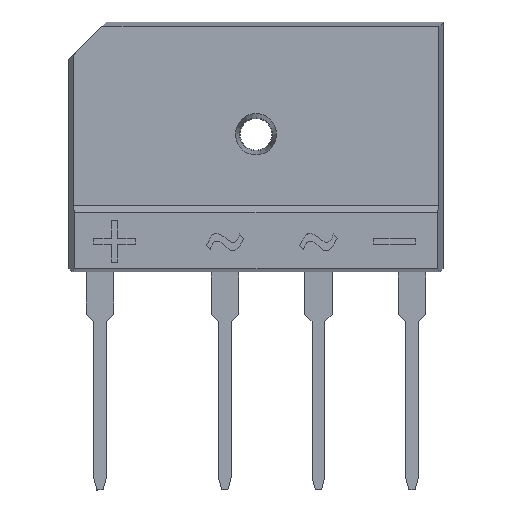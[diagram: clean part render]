
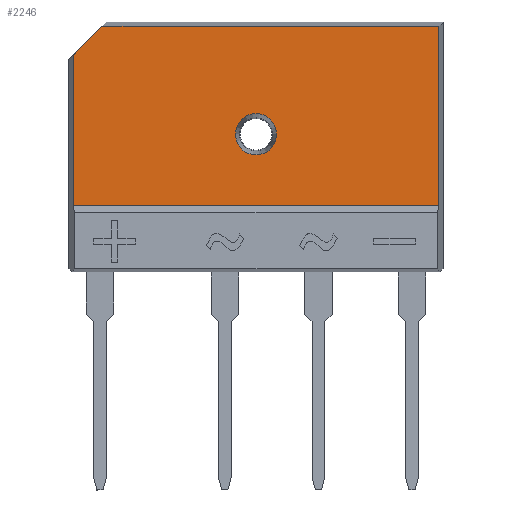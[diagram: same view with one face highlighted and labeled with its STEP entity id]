
A CAD part, top view. The second image highlights one B-rep face of the part: STEP entity #2246.
In plain terms, the highlighted planar face has unit normal (0, 0, 1).
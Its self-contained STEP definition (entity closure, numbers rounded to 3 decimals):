
#75 = VECTOR ( 'NONE', #4777, 1000. ) ;
#141 = DIRECTION ( 'NONE',  ( 1., 0., 0. ) ) ;
#193 = VERTEX_POINT ( 'NONE', #2133 ) ;
#219 = EDGE_CURVE ( 'NONE', #4292, #1981, #664, .T. ) ;
#234 = VERTEX_POINT ( 'NONE', #4473 ) ;
#262 = ORIENTED_EDGE ( 'NONE', *, *, #2604, .F. ) ;
#404 = CARTESIAN_POINT ( 'NONE',  ( -15., 9.656, 2.8 ) ) ;
#507 = EDGE_CURVE ( 'NONE', #193, #1981, #1909, .T. ) ;
#656 = ORIENTED_EDGE ( 'NONE', *, *, #4284, .F. ) ;
#664 = LINE ( 'NONE', #2166, #75 ) ;
#691 = DIRECTION ( 'NONE',  ( 0., -1., 0. ) ) ;
#696 = CARTESIAN_POINT ( 'NONE',  ( -12.344, 9.656, 2.8 ) ) ;
#748 = VECTOR ( 'NONE', #141, 1000. ) ;
#766 = DIRECTION ( 'NONE',  ( 0.707, 0.707, 0. ) ) ;
#1002 = VECTOR ( 'NONE', #766, 1000. ) ;
#1064 = EDGE_CURVE ( 'NONE', #3813, #4770, #1980, .T. ) ;
#1236 = DIRECTION ( 'NONE',  ( 1., 0., 0. ) ) ;
#1360 = CARTESIAN_POINT ( 'NONE',  ( 14.656, -4.7, 2.8 ) ) ;
#1481 = EDGE_CURVE ( 'NONE', #234, #2737, #4459, .T. ) ;
#1562 = CARTESIAN_POINT ( 'NONE',  ( 0., 1., 2.8 ) ) ;
#1588 = DIRECTION ( 'NONE',  ( 0., 0., 1. ) ) ;
#1696 = AXIS2_PLACEMENT_3D ( 'NONE', #2022, #4586, #1236 ) ;
#1712 = CARTESIAN_POINT ( 'NONE',  ( -15., 9.656, 2.8 ) ) ;
#1745 = FACE_OUTER_BOUND ( 'NONE', #1870, .T. ) ;
#1870 = EDGE_LOOP ( 'NONE', ( #656, #4593, #4172, #2179, #2471 ) ) ;
#1895 = VECTOR ( 'NONE', #691, 1000. ) ;
#1909 = LINE ( 'NONE', #4524, #1895 ) ;
#1940 = DIRECTION ( 'NONE',  ( 0., 0., -1. ) ) ;
#1980 = CIRCLE ( 'NONE', #4116, 1.65 ) ;
#1981 = VERTEX_POINT ( 'NONE', #1360 ) ;
#1994 = LINE ( 'NONE', #1712, #748 ) ;
#2022 = CARTESIAN_POINT ( 'NONE',  ( 0., 1., 2.8 ) ) ;
#2102 = CARTESIAN_POINT ( 'NONE',  ( -1.65, 1., 2.8 ) ) ;
#2133 = CARTESIAN_POINT ( 'NONE',  ( 14.656, 9.656, 2.8 ) ) ;
#2166 = CARTESIAN_POINT ( 'NONE',  ( -15., -4.7, 2.8 ) ) ;
#2174 = CARTESIAN_POINT ( 'NONE',  ( -12., 10., 2.8 ) ) ;
#2179 = ORIENTED_EDGE ( 'NONE', *, *, #219, .T. ) ;
#2246 = ADVANCED_FACE ( 'NONE', ( #4058, #1745 ), #2859, .F. ) ;
#2315 = LINE ( 'NONE', #3854, #3980 ) ;
#2328 = DIRECTION ( 'NONE',  ( 1., 0., 0. ) ) ;
#2471 = ORIENTED_EDGE ( 'NONE', *, *, #507, .F. ) ;
#2554 = AXIS2_PLACEMENT_3D ( 'NONE', #404, #1940, #3417 ) ;
#2604 = EDGE_CURVE ( 'NONE', #4770, #3813, #3166, .T. ) ;
#2640 = EDGE_CURVE ( 'NONE', #4292, #234, #2315, .T. ) ;
#2737 = VERTEX_POINT ( 'NONE', #696 ) ;
#2824 = EDGE_LOOP ( 'NONE', ( #262, #4263 ) ) ;
#2859 = PLANE ( 'NONE',  #2554 ) ;
#3102 = CARTESIAN_POINT ( 'NONE',  ( -14.656, -4.7, 2.8 ) ) ;
#3106 = DIRECTION ( 'NONE',  ( 0., 1., 0. ) ) ;
#3166 = CIRCLE ( 'NONE', #1696, 1.65 ) ;
#3417 = DIRECTION ( 'NONE',  ( 0., 1., 0. ) ) ;
#3813 = VERTEX_POINT ( 'NONE', #2102 ) ;
#3854 = CARTESIAN_POINT ( 'NONE',  ( -14.656, 7., 2.8 ) ) ;
#3873 = CARTESIAN_POINT ( 'NONE',  ( 1.65, 1., 2.8 ) ) ;
#3980 = VECTOR ( 'NONE', #3106, 1000. ) ;
#4058 = FACE_BOUND ( 'NONE', #2824, .T. ) ;
#4116 = AXIS2_PLACEMENT_3D ( 'NONE', #1562, #1588, #2328 ) ;
#4172 = ORIENTED_EDGE ( 'NONE', *, *, #2640, .F. ) ;
#4263 = ORIENTED_EDGE ( 'NONE', *, *, #1064, .F. ) ;
#4284 = EDGE_CURVE ( 'NONE', #2737, #193, #1994, .T. ) ;
#4292 = VERTEX_POINT ( 'NONE', #3102 ) ;
#4459 = LINE ( 'NONE', #2174, #1002 ) ;
#4473 = CARTESIAN_POINT ( 'NONE',  ( -14.656, 7.344, 2.8 ) ) ;
#4524 = CARTESIAN_POINT ( 'NONE',  ( 14.656, -10., 2.8 ) ) ;
#4586 = DIRECTION ( 'NONE',  ( 0., 0., 1. ) ) ;
#4593 = ORIENTED_EDGE ( 'NONE', *, *, #1481, .F. ) ;
#4770 = VERTEX_POINT ( 'NONE', #3873 ) ;
#4777 = DIRECTION ( 'NONE',  ( 1., 0., 0. ) ) ;
